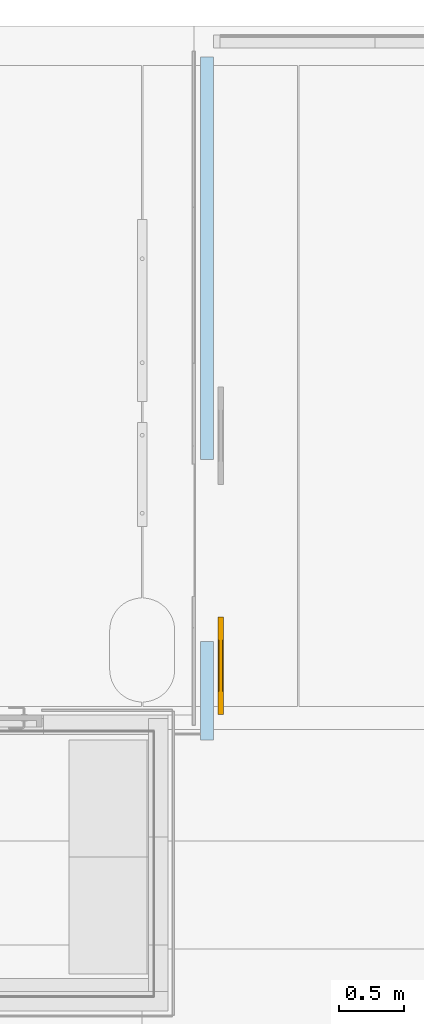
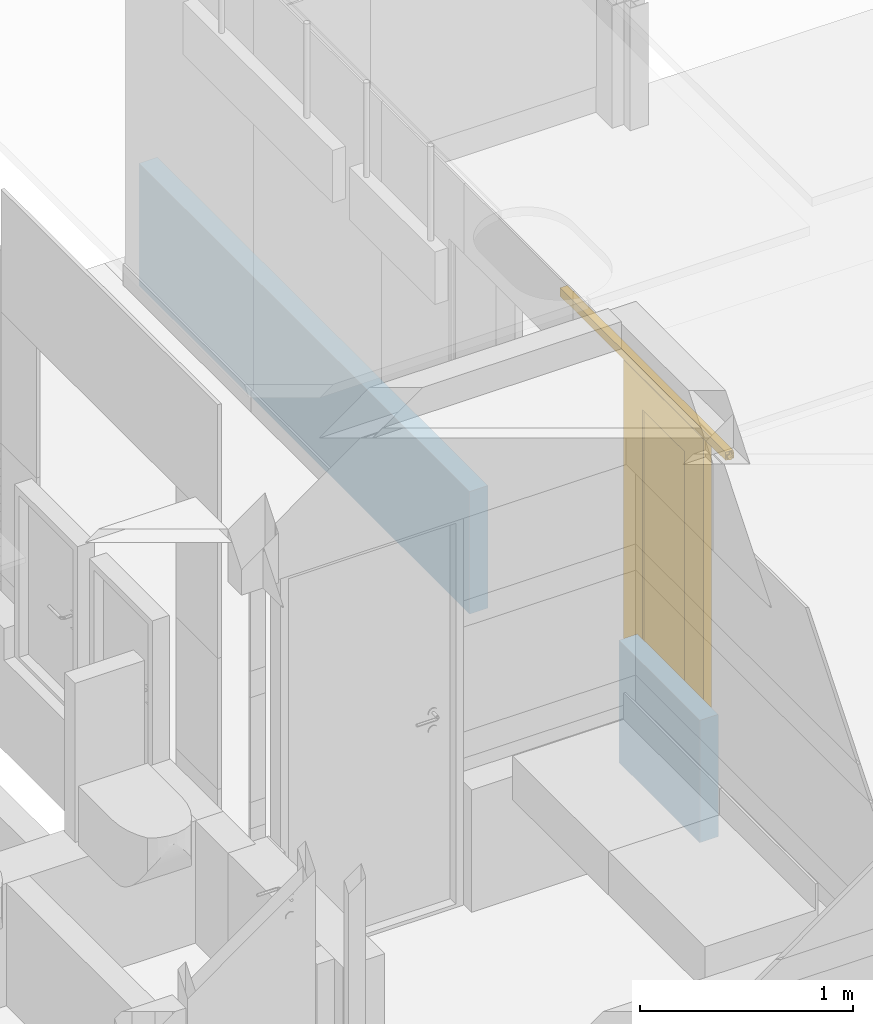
# One storey, part 20 of 26: 1 door, 2 openings, plus 1 element that does not belong to this part.
"""IFC2X3 building model written with IfcOpenShell, lengths in millimetres."""

import ifcopenshell
import ifcopenshell.guid

model = None  # the IFC model being written
_history = None  # IfcOwnerHistory: only IFC2X3 demands one
_inside = {}  # id of a spatial element -> (the spatial element, [elements in it])
_under = {}  # id of a project, library or spatial element -> (it, [spatial elements below it])
_declared = {}  # id of a project -> (the project, [libraries it declares])
_typed = {}  # id of a type object -> (the type object, [elements of that type])
_made_of = {}  # id of a material, layer set ... -> (it, [elements and type objects made of it])


def new_model(schema):
    """Start an empty IFC model of exactly this schema.

    Asked for "IFC4X3", IfcOpenShell would pick the latest addendum, in which some entities
    have other attributes; the version numbers below select the first issue.
    IFC2X3 requires an IfcOwnerHistory on every rooted entity: one is made here for all.
    """
    global model, _history
    if schema == "IFC4X3":
        model = ifcopenshell.file(schema_version=(4, 3, 0, 0))
    else:
        model = ifcopenshell.file(schema=schema)
    _inside.clear()
    _under.clear()
    _declared.clear()
    _typed.clear()
    _made_of.clear()
    _history = None
    if model.schema == "IFC2X3":
        org = make("IfcOrganization", Name="unknown")
        user = make(
            "IfcPersonAndOrganization",
            ThePerson=make("IfcPerson", FamilyName="unknown"),
            TheOrganization=org,
        )
        app = make(
            "IfcApplication",
            ApplicationDeveloper=org,
            Version="unknown",
            ApplicationFullName="unknown",
            ApplicationIdentifier="unknown",
        )
        _history = make(
            "IfcOwnerHistory",
            OwningUser=user,
            OwningApplication=app,
            ChangeAction="ADDED",
            CreationDate=0,
        )
    return model


def make(cls, **values):
    """One entity of the class cls with the attributes given. An attribute that is None is left unset."""
    return model.create_entity(
        cls, **{name: value for name, value in values.items() if value is not None}
    )


def entity(cls, *values):
    """Any entity or typed value of the class cls, its attributes in the order of the schema. None: left unset."""
    e = model.create_entity(cls)
    for i, value in enumerate(values):
        if value is not None:
            e[i] = value
    return e


def rooted(cls, **values):
    """An entity with a GlobalId (a new one), such as an element, a storey or a relation."""
    return make(cls, GlobalId=ifcopenshell.guid.new(), OwnerHistory=_history, **values)


def si_unit(unit_type, name, prefix=None):
    """IfcSIUnit, for example si_unit("LENGTHUNIT", "METRE", prefix="MILLI")."""
    return make("IfcSIUnit", UnitType=unit_type, Prefix=prefix, Name=name)


def converted_unit(unit_type, name, factor, base, dimensions=None, offset=None):
    """IfcConversionBasedUnit, such as the inch: factor (a typed value) times the base unit."""
    return make(
        "IfcConversionBasedUnit"
        if offset is None
        else "IfcConversionBasedUnitWithOffset",
        ConversionOffset=offset,
        Dimensions=None
        if dimensions is None
        else entity("IfcDimensionalExponents", *dimensions),
        UnitType=unit_type,
        Name=name,
        ConversionFactor=make(
            "IfcMeasureWithUnit", ValueComponent=factor, UnitComponent=base
        ),
    )


def derived_unit(unit_type, elements):
    """IfcDerivedUnit: a product of units, each with its exponent."""
    return make(
        "IfcDerivedUnit",
        Elements=[
            make("IfcDerivedUnitElement", Unit=unit, Exponent=power)
            for unit, power in elements
        ],
        UnitType=unit_type,
    )


def assignment(units):
    """IfcUnitAssignment: the units of a project."""
    return None if units is None else make("IfcUnitAssignment", Units=units)


def point(xyz):
    """IfcCartesianPoint."""
    return None if xyz is None else make("IfcCartesianPoint", Coordinates=xyz)


def direction(xyz):
    """IfcDirection."""
    return None if xyz is None else make("IfcDirection", DirectionRatios=xyz)


def frame(location, z_axis=None, x_axis=None):
    """IfcAxis2Placement3D, a coordinate frame: its origin and axes. An axis left out is left unset."""
    return make(
        "IfcAxis2Placement3D",
        Location=point(location),
        Axis=direction(z_axis),
        RefDirection=direction(x_axis),
    )


def frame_2d(location, x_axis=None):
    """IfcAxis2Placement2D, a coordinate frame in the plane: its origin and x axis."""
    return make(
        "IfcAxis2Placement2D", Location=point(location), RefDirection=direction(x_axis)
    )


def origin():
    """The frame at (0, 0, 0) with its axes left unset."""
    return frame((0.0, 0.0, 0.0))


def origin_with_axes():
    """The frame at (0, 0, 0) with the z axis (0, 0, 1) and the x axis (1, 0, 0) written out."""
    return frame((0.0, 0.0, 0.0), z_axis=(0.0, 0.0, 1.0), x_axis=(1.0, 0.0, 0.0))


def place(relative_to, where):
    """IfcLocalPlacement: puts the frame where relative to a parent placement (None: the world)."""
    return make(
        "IfcLocalPlacement", PlacementRelTo=relative_to, RelativePlacement=where
    )


def context(
    kind, dimensions, precision=None, world=None, true_north=None, identifier=None
):
    """IfcGeometricRepresentationContext, for example the 3D "Model" context."""
    return make(
        "IfcGeometricRepresentationContext",
        ContextIdentifier=identifier,
        ContextType=kind,
        CoordinateSpaceDimension=dimensions,
        Precision=precision,
        WorldCoordinateSystem=world,
        TrueNorth=true_north,
    )


def subcontext(parent, identifier, kind, view, scale=None):
    """IfcGeometricRepresentationSubContext, for example "Body" below "Model"."""
    return make(
        "IfcGeometricRepresentationSubContext",
        ContextIdentifier=identifier,
        ContextType=kind,
        ParentContext=parent,
        TargetScale=scale,
        TargetView=view,
    )


def project(units=None, contexts=None):
    """IfcProject with its units and contexts."""
    return rooted(
        "IfcProject",
        Name="project",
        RepresentationContexts=contexts,
        UnitsInContext=assignment(units),
    )


def spatial(cls, under=None, at=None, **own):
    """A site, building, storey or space (cls), placed at a placement, below another one or the project."""
    s = rooted(cls, ObjectPlacement=at, **own)
    if under is not None:
        _under.setdefault(under.id(), (under, []))[1].append(s)
    return s


def profile(cls, at=None, kind="AREA", **sizes):
    """A parametric profile (cls). Its sizes go by their IFC names, for example OverallWidth=200.0."""
    return make(cls, ProfileType=kind, Position=at, **sizes)


def rectangle(**sizes):
    """IfcRectangleProfileDef."""
    return profile("IfcRectangleProfileDef", **sizes)


def extrude(swept, where, along, depth):
    """IfcExtrudedAreaSolid: the profile swept, set in the frame where, extruded along a direction by depth."""
    return make(
        "IfcExtrudedAreaSolid",
        SweptArea=swept,
        Position=where,
        ExtrudedDirection=direction(along),
        Depth=depth,
    )


def clip(a, b, op="DIFFERENCE"):
    """IfcBooleanClippingResult: the solid a cut by the half space b."""
    return make(
        "IfcBooleanClippingResult", Operator=op, FirstOperand=a, SecondOperand=b
    )


def halfspace(plane, agree):
    """IfcHalfSpaceSolid: all space on one side of the plane z = 0 of the frame plane."""
    return make(
        "IfcHalfSpaceSolid",
        BaseSurface=make("IfcPlane", Position=plane),
        AgreementFlag=agree,
    )


def faces_of(points, faces, orient=None, outer=None):
    """IfcFace entities. A face is a list of loops; a loop is a list of indices into points, from 0.

    orient and outer hold one flag for each loop. By default every Orientation is true, the
    first loop of a face is its IfcFaceOuterBound and the others are IfcFaceBound.
    """
    made = []
    for i, loops in enumerate(faces):
        bounds = []
        for j, loop in enumerate(loops):
            is_outer = j == 0 if outer is None else outer[i][j]
            bounds.append(
                make(
                    "IfcFaceOuterBound" if is_outer else "IfcFaceBound",
                    Bound=make("IfcPolyLoop", Polygon=[points[k] for k in loop]),
                    Orientation=True if orient is None else orient[i][j],
                )
            )
        made.append(make("IfcFace", Bounds=bounds))
    return made


def faceted_brep(points, faces, orient=None, outer=None, voids=None):
    """IfcFacetedBrep: a solid bounded by flat faces; with voids (closed shells), ...WithVoids."""
    shared = [point(p) for p in points]
    hull = make("IfcClosedShell", CfsFaces=faces_of(shared, faces, orient, outer))
    if voids is None:
        return make("IfcFacetedBrep", Outer=hull)
    return make(
        "IfcFacetedBrepWithVoids",
        Outer=hull,
        Voids=[
            make(cls, CfsFaces=faces_of(shared, fs, o, b)) for cls, fs, o, b in voids
        ],
    )


def shape(context_of_items, identifier, shape_type, items):
    """IfcShapeRepresentation: the items that make up one representation, for example the "Body"."""
    return make(
        "IfcShapeRepresentation",
        ContextOfItems=context_of_items,
        RepresentationIdentifier=identifier,
        RepresentationType=shape_type,
        Items=items,
    )


def source(mapping_origin, context_of_items, identifier, shape_type, items):
    """IfcRepresentationMap: a shape defined once, which mapped items show again and again."""
    return make(
        "IfcRepresentationMap",
        MappingOrigin=mapping_origin,
        MappedRepresentation=shape(context_of_items, identifier, shape_type, items),
    )


def transform(
    local_origin,
    x_axis=None,
    y_axis=None,
    z_axis=None,
    scale=None,
    scale2=None,
    scale3=None,
    uniform=True,
):
    """IfcCartesianTransformationOperator3D, or its non-uniform kind. x_axis, y_axis, z_axis: its Axis1, 2, 3."""
    if uniform:
        return make(
            "IfcCartesianTransformationOperator3D",
            Axis1=direction(x_axis),
            Axis2=direction(y_axis),
            LocalOrigin=point(local_origin),
            Scale=scale,
            Axis3=direction(z_axis),
        )
    return make(
        "IfcCartesianTransformationOperator3DnonUniform",
        Axis1=direction(x_axis),
        Axis2=direction(y_axis),
        LocalOrigin=point(local_origin),
        Scale=scale,
        Axis3=direction(z_axis),
        Scale2=scale2,
        Scale3=scale3,
    )


def mapped(mapping_source, mapping_target):
    """IfcMappedItem: shows the shape of a source again, moved by a transform."""
    return make(
        "IfcMappedItem", MappingSource=mapping_source, MappingTarget=mapping_target
    )


def material(Name=None, Category=None):
    """IfcMaterial."""
    return make("IfcMaterial", Name=Name, Category=Category)


def material_list(materials):
    """IfcMaterialList."""
    return make("IfcMaterialList", Materials=materials)


def layer(
    of_material, thickness, ventilated=None, Name=None, Category=None, Priority=None
):
    """IfcMaterialLayer: one layer of a wall or slab, of a material (None: an air gap)."""
    return make(
        "IfcMaterialLayer",
        Material=of_material,
        LayerThickness=thickness,
        IsVentilated=ventilated,
        Name=Name,
        Category=Category,
        Priority=Priority,
    )


def layer_set(layers, Name=None):
    """IfcMaterialLayerSet."""
    return make("IfcMaterialLayerSet", MaterialLayers=layers, LayerSetName=Name)


def layer_usage(for_layer_set, set_direction, sense, offset, extent=None):
    """IfcMaterialLayerSetUsage: how a layer set lies in its element."""
    return make(
        "IfcMaterialLayerSetUsage",
        ForLayerSet=for_layer_set,
        LayerSetDirection=set_direction,
        DirectionSense=sense,
        OffsetFromReferenceLine=offset,
        ReferenceExtent=extent,
    )


def made_of(thing, what):
    """Note that an element or type object is made of a material, layer set ...; save() writes the relation."""
    if what is not None:
        _made_of.setdefault(what.id(), (what, []))[1].append(thing)
    return thing


def type_object(cls, material=None, **own):
    """A type object (cls), such as IfcWallType, which elements share."""
    return made_of(rooted(cls, **own), material)


def element(
    cls,
    number,
    at=None,
    inside=None,
    cuts=None,
    type_object=None,
    material=None,
    context=None,
    identifier="Body",
    shape_type=None,
    held_by="IfcProductDefinitionShape",
    body=None,
    shapes=None,
    **own,
):
    """One element of the class cls, such as IfcWall. Its Tag is "e" and its number.

    at: its placement. inside: the storey or other place that contains it. cuts: it is an
    opening in that element (IfcRelVoidsElement). A single representation is given by context,
    identifier, shape_type and body (its items); several are given by shapes. held_by: the class
    of the entity that holds the representations. save() writes the other relations.
    """
    e = rooted(cls, Tag="e%d" % number, ObjectPlacement=at, **own)
    if body is not None:
        shapes = [shape(context, identifier, shape_type, body)]
    if shapes is not None:
        e.Representation = make(held_by, Representations=shapes)
    if inside is not None:
        _inside.setdefault(inside.id(), (inside, []))[1].append(e)
    if cuts is not None:
        rooted(
            "IfcRelVoidsElement", RelatingBuildingElement=cuts, RelatedOpeningElement=e
        )
    if type_object is not None:
        _typed.setdefault(type_object.id(), (type_object, []))[1].append(e)
    return made_of(e, material)


def fill(opening, filler):
    """IfcRelFillsElement: the door or window that sits in an opening."""
    return rooted(
        "IfcRelFillsElement",
        RelatingOpeningElement=opening,
        RelatedBuildingElement=filler,
    )


def aggregate(whole, parts):
    """IfcRelAggregates: a whole, such as a stair, and the parts it consists of."""
    return rooted("IfcRelAggregates", RelatingObject=whole, RelatedObjects=parts)


def save(model, path):
    """Write the relations noted so far, then the file.

    IfcRelAggregates (storeys below a building ...), IfcRelContainedInSpatialStructure (elements
    in a storey), IfcRelDefinesByType, IfcRelAssociatesMaterial and IfcRelDeclares: one each for
    every whole, place, type object, material and project.
    """
    for whole, parts in _under.values():
        aggregate(whole, parts)
    for where, things in _inside.values():
        rooted(
            "IfcRelContainedInSpatialStructure",
            RelatedElements=things,
            RelatingStructure=where,
        )
    for kind, things in _typed.values():
        rooted("IfcRelDefinesByType", RelatedObjects=things, RelatingType=kind)
    for what, things in _made_of.values():
        rooted("IfcRelAssociatesMaterial", RelatedObjects=things, RelatingMaterial=what)
    for by, libraries in _declared.values():
        rooted("IfcRelDeclares", RelatingContext=by, RelatedDefinitions=libraries)
    model.write(path)


model = new_model("IFC2X3")

# Units and contexts
model_context = context("Model", 3, precision=0.01, world=frame((0.0, 4.29681676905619e-09, 0.0)), true_north=direction((4.01073788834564e-13, 1.0)))
plan_context = context("Plan", 3, precision=0.01, world=frame((0.0, 4.29681676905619e-09, 0.0)), true_north=direction((4.01073788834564e-13, 1.0)))
body_context = subcontext(model_context, "Body", "Model", "MODEL_VIEW")
ifc_project = project(units=[converted_unit("PLANEANGLEUNIT", "DEGREE", entity("IfcPositiveLengthMeasure", 0.0174532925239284), si_unit("PLANEANGLEUNIT", "RADIAN"), dimensions=[0, 0, 0, 0, 0, 0, 0]), si_unit("AREAUNIT", "SQUARE_METRE"), si_unit("LENGTHUNIT", "METRE", prefix="MILLI"), si_unit("MASSUNIT", "GRAM", prefix="KILO"), si_unit("POWERUNIT", "WATT"), si_unit("PRESSUREUNIT", "PASCAL", prefix="KILO"), si_unit("FORCEUNIT", "NEWTON", prefix="KILO"), si_unit("ELECTRICVOLTAGEUNIT", "VOLT"), si_unit("ELECTRICCURRENTUNIT", "AMPERE"), si_unit("THERMODYNAMICTEMPERATUREUNIT", "DEGREE_CELSIUS"), si_unit("TIMEUNIT", "SECOND"), si_unit("VOLUMEUNIT", "CUBIC_METRE"), derived_unit("LINEARVELOCITYUNIT", [(si_unit("LENGTHUNIT", "METRE"), 1), (si_unit("TIMEUNIT", "SECOND"), -1)]), derived_unit("VOLUMETRICFLOWRATEUNIT", [(si_unit("VOLUMEUNIT", "CUBIC_METRE"), 1), (si_unit("TIMEUNIT", "SECOND"), -1)]), derived_unit("THERMALTRANSMITTANCEUNIT", [(si_unit("POWERUNIT", "WATT"), 1), (si_unit("THERMODYNAMICTEMPERATUREUNIT", "KELVIN"), -1), (si_unit("AREAUNIT", "SQUARE_METRE"), -1)]), derived_unit("SOUNDPRESSUREUNIT", [(si_unit("PRESSUREUNIT", "PASCAL"), 1)])], contexts=[model_context, plan_context])

# Site, building, storey
site_placement = place(None, origin_with_axes())
site = spatial("IfcSite", under=ifc_project, at=site_placement, Name="ENGM", CompositionType="ELEMENT")
building_placement = place(site_placement, origin_with_axes())
building = spatial("IfcBuilding", under=site, at=building_placement, Name="TG", CompositionType="ELEMENT")
storey_placement = place(building_placement, frame((0.0, 0.0, 210200.0), z_axis=(0.0, 0.0, 1.0), x_axis=(1.0, 0.0, 0.0)))
storey = spatial("IfcBuildingStorey", under=building, at=storey_placement, Name="Nivå F - 0,7 m", CompositionType="ELEMENT", Elevation=210200.0)

# Wall, openings, door
ifc_material_1 = material(Name="Plate - Gips")
ifc_layer_1 = layer(ifc_material_1, 12.5)
ifc_material_2 = material(Name="_NSW Stålstender, uisolert")
ifc_layer_2 = layer(ifc_material_2, 75.0)
ifc_layer_3 = layer(ifc_material_1, 12.5)
ifc_layer_set = layer_set([ifc_layer_1, ifc_layer_2, ifc_layer_3], Name="Basic Wall:A241 - Eksisterende - GSVS-11")
ifc_layer_usage = layer_usage(ifc_layer_set, "AXIS2", "NEGATIVE", 50.0)
wall_type = type_object("IfcWallType", Name="Basic Wall:A241 - Eksisterende - GSVS-11", PredefinedType="STANDARD", material=ifc_layer_set)
wall_placement = place(storey_placement, frame((331498.69226286, 467260.742801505, 0.0), z_axis=(0.0, 0.0, 1.0), x_axis=(0.0, -1.0, 0.0)))
wall = element("IfcWallStandardCase", 1, at=wall_placement, inside=storey, type_object=wall_type, material=ifc_layer_usage, Name="Basic Wall:A241 - Eksisterende - GSVS-11", ObjectType="Basic Wall:A241 - Eksisterende - GSVS-11", context=body_context, shape_type="Clipping", body=[
    clip(extrude(rectangle(XDim=5253.86896894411, YDim=99.9999999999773, at=frame_2d((2626.93448447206, 3.46531692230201e-11), x_axis=(1.0, 0.0))), origin(), (0.0, 0.0, 1.0), 700.000000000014), halfspace(origin(), True)),
])
opening_1_placement = place(wall_placement, frame((4497.4017700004, 50.0, 0.0), z_axis=(0.0, 0.0, 1.0), x_axis=(1.0, 0.0, 0.0)))
opening_1 = element("IfcOpeningElement", 2, at=opening_1_placement, cuts=wall, Name="single_panel_sliding_door_whafele_hrdw_parametric_2015:single_panel_sliding_door_whafele_hrdw_parametric_7m:1", ObjectType="Opening", context=body_context, shape_type="SweptSolid", body=[
    extrude(rectangle(XDim=2133.6, YDim=699.999999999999, at=frame_2d((1066.8, 350.000000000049), x_axis=(1.0, 0.0))), frame((0.0, 0.0, 0.0), z_axis=(0.0, -1.0, 0.0), x_axis=(0.0, 0.0, 1.0)), (0.0, 0.0, 1.0), 100.0),
])
opening_2_placement = place(wall_placement, frame((3797.40177000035, 50.0, 0.0), z_axis=(0.0, 0.0, 1.0), x_axis=(1.0, 0.0, 0.0)))
element("IfcOpeningElement", 3, at=opening_2_placement, cuts=wall, Name="single_panel_sliding_door_whafele_hrdw_parametric_2015:single_panel_sliding_door_whafele_hrdw_parametric_7m:1", ObjectType="Opening", context=body_context, shape_type="SweptSolid", body=[
    extrude(rectangle(XDim=2133.6, YDim=699.999999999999, at=frame_2d((1066.8, 350.0), x_axis=(1.0, 0.0))), frame((0.0, 0.0, 0.0), z_axis=(0.0, -1.0, 0.0), x_axis=(0.0, 0.0, 1.0)), (0.0, 0.0, 1.0), 100.0),
])
ifc_material_3 = material(Name="Glass")
ifc_material_4 = material(Name="<Unnamed>")
ifc_material_list = material_list([ifc_material_3, ifc_material_4])
door_style = type_object("IfcDoorStyle", Name="single_panel_sliding_door_whafele_hrdw_parametric_2015:single_panel_sliding_door_whafele_hrdw_parametric_7m", ConstructionType="NOTDEFINED", OperationType="NOTDEFINED", ParameterTakesPrecedence=False, Sizeable=False, material=ifc_material_list)
shared_shape = source(origin(), body_context, "Body", "Brep", [
    faceted_brep([(-381.0, -43.1173299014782, 1962.15), (14.2000000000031, -43.1173299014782, 1962.15), (14.2000000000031, -43.1173299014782, 184.149999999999), (-381.0, -43.1173299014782, 184.149999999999), (-381.0, -68.5173299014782, 1962.15), (-381.0, -68.5173299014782, 184.149999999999), (14.2000000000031, -68.5173299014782, 184.149999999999), (14.2000000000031, -68.5173299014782, 1962.15)], [[[0, 1, 2, 3]], [[4, 5, 6, 7]], [[3, 5, 4, 0]], [[2, 6, 5, 3]], [[1, 7, 6, 2]], [[0, 4, 7, 1]]]),
    faceted_brep([(-558.799999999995, -34.9312499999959, 2139.95), (192.0, -34.9312499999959, 2139.95), (192.0, -34.9312499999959, 6.35000000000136), (-558.799999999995, -34.9312499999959, 6.35000000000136), (-381.0, -34.9312499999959, 1962.15), (-381.0, -34.9312499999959, 184.149999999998), (14.2000000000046, -34.9312499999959, 184.149999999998), (14.2000000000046, -34.9312499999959, 1962.15), (-558.799999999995, -76.2062499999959, 2139.95), (-558.799999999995, -76.2062499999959, 6.35000000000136), (192.0, -76.2062499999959, 6.35000000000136), (192.0, -76.2062499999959, 2139.95), (-381.0, -76.2062499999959, 1962.15), (14.2000000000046, -76.2062499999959, 1962.15), (14.2000000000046, -76.2062499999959, 184.149999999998), (-381.0, -76.2062499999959, 184.149999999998), (185.650000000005, -44.4562499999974, 6.35000000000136), (-552.449999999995, -44.4562499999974, 6.35000000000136), (-552.449999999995, -66.6812499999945, 6.35000000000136), (185.650000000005, -66.6812499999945, 6.35000000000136), (185.650000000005, -44.4562499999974, 19.050000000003), (185.650000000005, -66.6812499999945, 19.050000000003), (-552.449999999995, -44.4562499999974, 19.050000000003), (-552.449999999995, -66.6812499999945, 19.050000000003)], [[[0, 1, 2, 3], [4, 5, 6, 7]], [[8, 9, 10, 11], [12, 13, 14, 15]], [[3, 9, 8, 0]], [[16, 17, 18, 19], [2, 10, 9, 3]], [[1, 11, 10, 2]], [[0, 8, 11, 1]], [[7, 13, 12, 4]], [[6, 14, 13, 7]], [[5, 15, 14, 6]], [[4, 12, 15, 5]], [[20, 16, 19, 21]], [[22, 23, 18, 17]], [[20, 22, 17, 16]], [[19, 18, 23, 21]], [[21, 23, 22, 20]]], outer=[[True, False], [True, False], [True], [False, True], [True], [True], [True], [True], [True], [True], [True], [True], [True], [True], [True]]),
    faceted_brep([(-50.7999999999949, -39.0002848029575, 3.96875), (-50.7999999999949, -39.0002848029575, 0.0), (-50.7999999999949, -72.7346598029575, 0.0), (-50.7999999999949, -72.7346598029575, 3.96875), (-50.7999999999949, -60.8284098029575, 3.96875000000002), (-50.7999999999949, -60.8284098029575, 23.8125), (-50.7999999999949, -50.9065348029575, 23.8125), (-50.7999999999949, -50.9065348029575, 3.96875000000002), (0.0, -39.0002848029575, 3.96875), (0.0, -50.9065348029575, 3.96875000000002), (0.0, -50.9065348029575, 23.8125), (0.0, -60.8284098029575, 23.8125), (0.0, -60.8284098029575, 3.96875000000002), (0.0, -72.7346598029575, 3.96875), (0.0, -72.7346598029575, 0.0), (0.0, -39.0002848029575, 0.0)], [[[0, 1, 2, 3, 4, 5, 6, 7]], [[8, 9, 10, 11, 12, 13, 14, 15]], [[7, 9, 8, 0]], [[6, 10, 9, 7]], [[5, 11, 10, 6]], [[4, 12, 11, 5]], [[3, 13, 12, 4]], [[2, 14, 13, 3]], [[1, 15, 14, 2]], [[0, 8, 15, 1]]]),
    faceted_brep([(776.200000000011, -51.446613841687, 2188.11702237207), (776.200000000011, -51.446613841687, 2185.70191237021), (776.200000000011, -41.9547616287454, 2185.70191237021), (776.200000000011, -41.9547616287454, 2156.51946323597), (776.200000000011, -43.5123723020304, 2156.51946323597), (776.200000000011, -43.5123723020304, 2153.68744383), (776.200000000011, -48.0436033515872, 2153.68744383), (776.200000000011, -48.0436033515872, 2151.56342927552), (776.200000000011, -39.4134133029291, 2151.56342927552), (776.200000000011, -39.4134133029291, 2188.11702237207), (-776.19999999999, -51.446613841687, 2188.11702237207), (-776.19999999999, -39.4134133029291, 2188.11702237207), (-776.19999999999, -39.4134133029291, 2151.56342927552), (-776.19999999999, -48.0436033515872, 2151.56342927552), (-776.19999999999, -48.0436033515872, 2153.68744383), (-776.19999999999, -43.5123723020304, 2153.68744383), (-776.19999999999, -43.5123723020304, 2156.51946323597), (-776.19999999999, -41.9547616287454, 2156.51946323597), (-776.19999999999, -41.9547616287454, 2185.70191237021), (-776.19999999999, -51.446613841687, 2185.70191237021)], [[[0, 1, 2, 3, 4, 5, 6, 7, 8, 9]], [[10, 11, 12, 13, 14, 15, 16, 17, 18, 19]], [[9, 11, 10, 0]], [[8, 12, 11, 9]], [[7, 13, 12, 8]], [[6, 14, 13, 7]], [[5, 15, 14, 6]], [[4, 16, 15, 5]], [[3, 17, 16, 4]], [[2, 18, 17, 3]], [[1, 19, 18, 2]], [[0, 10, 19, 1]]]),
    faceted_brep([(776.200000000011, -60.2666601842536, 2185.70191237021), (-776.19999999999, -60.2666601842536, 2185.70191237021), (-776.19999999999, -60.2666601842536, 2188.11702237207), (776.200000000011, -60.2666601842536, 2188.11702237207), (776.200000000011, -69.8183154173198, 2185.70191237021), (-776.19999999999, -69.8183154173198, 2185.70191237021), (776.200000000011, -69.8183154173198, 2156.51946323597), (-776.19999999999, -69.8183154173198, 2156.51946323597), (776.200000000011, -68.2607047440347, 2156.51946323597), (-776.19999999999, -68.2607047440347, 2156.51946323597), (776.200000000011, -68.2607047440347, 2153.68744383), (-776.19999999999, -68.2607047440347, 2153.68744383), (776.200000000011, -63.7294736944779, 2153.68744383), (-776.19999999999, -63.7294736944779, 2153.68744383), (776.200000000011, -63.7294736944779, 2151.56342927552), (-776.19999999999, -63.7294736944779, 2151.56342927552), (776.200000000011, -72.3596637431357, 2151.56342927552), (-776.19999999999, -72.3596637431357, 2151.56342927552), (776.200000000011, -72.3596637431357, 2188.11702237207), (-776.19999999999, -72.3596637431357, 2188.11702237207)], [[[0, 1, 2, 3]], [[4, 5, 1, 0]], [[6, 7, 5, 4]], [[8, 9, 7, 6]], [[10, 11, 9, 8]], [[12, 13, 11, 10]], [[14, 15, 13, 12]], [[16, 17, 15, 14]], [[18, 19, 17, 16]], [[3, 2, 19, 18]], [[2, 1, 5, 7, 9, 11, 13, 15, 17, 19]], [[3, 18, 16, 14, 12, 10, 8, 6, 4, 0]]]),
    faceted_brep([(776.200000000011, -43.5123723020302, 2163.31953079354), (776.200000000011, -41.9547616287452, 2163.31953079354), (776.200000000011, -41.9547616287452, 2176.01953079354), (776.200000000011, -43.5123723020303, 2176.01953079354), (776.200000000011, -43.5123723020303, 2184.85617585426), (776.200000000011, -48.1431476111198, 2184.85617585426), (776.200000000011, -48.1431476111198, 2176.01953079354), (776.200000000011, -63.6897324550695, 2176.01953079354), (776.200000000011, -63.6897324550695, 2184.85617585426), (776.200000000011, -68.320507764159, 2184.85617585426), (776.200000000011, -68.320507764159, 2176.01953079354), (776.200000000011, -69.878118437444, 2176.01953079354), (776.200000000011, -69.878118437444, 2163.31953079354), (776.200000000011, -68.320507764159, 2163.31953079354), (776.200000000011, -68.320507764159, 2170.61541673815), (776.200000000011, -63.7892767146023, 2170.61541673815), (776.200000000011, -63.7892767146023, 2163.31953079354), (776.200000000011, -48.043603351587, 2163.31953079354), (776.200000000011, -48.043603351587, 2152.84170731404), (776.200000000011, -43.5123723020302, 2152.84170731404), (-776.199999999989, -43.5123723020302, 2163.31953079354), (-776.199999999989, -43.5123723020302, 2152.84170731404), (-776.199999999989, -48.043603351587, 2152.84170731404), (-776.199999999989, -48.043603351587, 2163.31953079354), (-776.199999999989, -63.7892767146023, 2163.31953079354), (-776.199999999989, -63.7892767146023, 2170.61541673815), (-776.199999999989, -68.320507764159, 2170.61541673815), (-776.199999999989, -68.320507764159, 2163.31953079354), (-776.199999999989, -69.878118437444, 2163.31953079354), (-776.199999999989, -69.878118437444, 2176.01953079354), (-776.199999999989, -68.320507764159, 2176.01953079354), (-776.199999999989, -68.320507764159, 2184.85617585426), (-776.199999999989, -63.6897324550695, 2184.85617585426), (-776.199999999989, -63.6897324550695, 2176.01953079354), (-776.199999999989, -48.1431476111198, 2176.01953079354), (-776.199999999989, -48.1431476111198, 2184.85617585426), (-776.199999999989, -43.5123723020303, 2184.85617585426), (-776.199999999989, -43.5123723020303, 2176.01953079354), (-776.199999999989, -41.9547616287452, 2176.01953079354), (-776.199999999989, -41.9547616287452, 2163.31953079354)], [[[0, 1, 2, 3, 4, 5, 6, 7, 8, 9, 10, 11, 12, 13, 14, 15, 16, 17, 18, 19]], [[20, 21, 22, 23, 24, 25, 26, 27, 28, 29, 30, 31, 32, 33, 34, 35, 36, 37, 38, 39]], [[19, 21, 20, 0]], [[18, 22, 21, 19]], [[17, 23, 22, 18]], [[16, 24, 23, 17]], [[15, 25, 24, 16]], [[14, 26, 25, 15]], [[13, 27, 26, 14]], [[12, 28, 27, 13]], [[11, 29, 28, 12]], [[10, 30, 29, 11]], [[9, 31, 30, 10]], [[8, 32, 31, 9]], [[7, 33, 32, 8]], [[6, 34, 33, 7]], [[5, 35, 34, 6]], [[4, 36, 35, 5]], [[3, 37, 36, 4]], [[2, 38, 37, 3]], [[1, 39, 38, 2]], [[0, 20, 39, 1]]]),
    faceted_brep([(776.200000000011, -48.9057992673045, 2162.35292818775), (-776.199999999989, -48.9057992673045, 2162.35292818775), (-776.199999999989, -62.7288605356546, 2162.35292818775), (776.200000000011, -62.7288605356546, 2162.35292818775), (776.200000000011, -48.9057992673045, 2147.30384601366), (-776.199999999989, -48.9057992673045, 2147.30384601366), (776.200000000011, -62.7288605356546, 2147.30384601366), (-776.199999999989, -62.7288605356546, 2147.30384601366)], [[[0, 1, 2, 3]], [[4, 5, 1, 0]], [[6, 7, 5, 4]], [[3, 2, 7, 6]], [[2, 1, 5, 7]], [[3, 6, 4, 0]]]),
    faceted_brep([(776.200000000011, -28.3065387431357, 2199.64030115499), (776.200000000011, -69.3820783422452, 2199.64030115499), (776.200000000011, -72.3596637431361, 2188.52780115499), (776.200000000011, -62.2936343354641, 2188.52780115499), (776.200000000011, -62.2936343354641, 2191.65853498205), (776.200000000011, -65.4414400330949, 2191.65853498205), (776.200000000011, -65.4414400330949, 2194.87201231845), (776.200000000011, -46.3914400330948, 2194.87201231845), (776.200000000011, -46.3914400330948, 2191.65853498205), (776.200000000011, -49.5392457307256, 2191.65853498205), (776.200000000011, -49.5392457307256, 2188.52780115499), (776.200000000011, -39.4190387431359, 2188.52780115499), (776.200000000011, -39.4190387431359, 2184.31565134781), (776.200000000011, -33.069038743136, 2184.31565134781), (776.200000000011, -33.069038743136, 2165.26565134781), (776.200000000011, -35.037729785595, 2163.29696030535), (776.200000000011, -35.037729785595, 2155.9609868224), (776.200000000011, -39.4190387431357, 2155.9609868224), (776.200000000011, -39.4190387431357, 2152.80905115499), (776.200000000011, -28.3065387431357, 2152.80905115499), (-776.199999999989, -28.3065387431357, 2199.64030115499), (-776.199999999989, -28.3065387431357, 2152.80905115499), (-776.199999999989, -39.4190387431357, 2152.80905115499), (-776.199999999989, -39.4190387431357, 2155.9609868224), (-776.199999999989, -35.037729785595, 2155.9609868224), (-776.199999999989, -35.037729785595, 2163.29696030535), (-776.199999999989, -33.069038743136, 2165.26565134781), (-776.199999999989, -33.069038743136, 2184.31565134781), (-776.199999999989, -39.4190387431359, 2184.31565134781), (-776.199999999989, -39.4190387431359, 2188.52780115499), (-776.199999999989, -49.5392457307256, 2188.52780115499), (-776.199999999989, -49.5392457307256, 2191.65853498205), (-776.199999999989, -46.3914400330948, 2191.65853498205), (-776.199999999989, -46.3914400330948, 2194.87201231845), (-776.199999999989, -65.4414400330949, 2194.87201231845), (-776.199999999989, -65.4414400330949, 2191.65853498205), (-776.199999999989, -62.2936343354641, 2191.65853498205), (-776.199999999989, -62.2936343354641, 2188.52780115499), (-776.199999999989, -72.3596637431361, 2188.52780115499), (-776.199999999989, -69.3820783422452, 2199.64030115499)], [[[0, 1, 2, 3, 4, 5, 6, 7, 8, 9, 10, 11, 12, 13, 14, 15, 16, 17, 18, 19]], [[20, 21, 22, 23, 24, 25, 26, 27, 28, 29, 30, 31, 32, 33, 34, 35, 36, 37, 38, 39]], [[19, 21, 20, 0]], [[18, 22, 21, 19]], [[17, 23, 22, 18]], [[16, 24, 23, 17]], [[15, 25, 24, 16]], [[14, 26, 25, 15]], [[13, 27, 26, 14]], [[12, 28, 27, 13]], [[11, 29, 28, 12]], [[10, 30, 29, 11]], [[9, 31, 30, 10]], [[8, 32, 31, 9]], [[7, 33, 32, 8]], [[6, 34, 33, 7]], [[5, 35, 34, 6]], [[4, 36, 35, 5]], [[3, 37, 36, 4]], [[2, 38, 37, 3]], [[1, 39, 38, 2]], [[0, 20, 39, 1]]]),
])
door_placement = place(opening_1_placement, frame((0.0, 0.0, 0.0), z_axis=(0.0, 0.0, 1.0), x_axis=(-1.0, 0.0, 0.0)))
door = element("IfcDoor", 4, at=door_placement, inside=storey, type_object=door_style, material=ifc_material_list, Name="single_panel_sliding_door_whafele_hrdw_parametric_2015:single_panel_sliding_door_whafele_hrdw_parametric_7m", ObjectType="single_panel_sliding_door_whafele_hrdw_parametric_2015:single_panel_sliding_door_whafele_hrdw_parametric_7m", OverallHeight=2133.6, OverallWidth=700.000000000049, context=body_context, shape_type="MappedRepresentation", body=[
    mapped(shared_shape, transform((0.0, 0.0, 0.0), scale=1.0)),
])
fill(opening_1, door)

save(model, "model.ifc")
